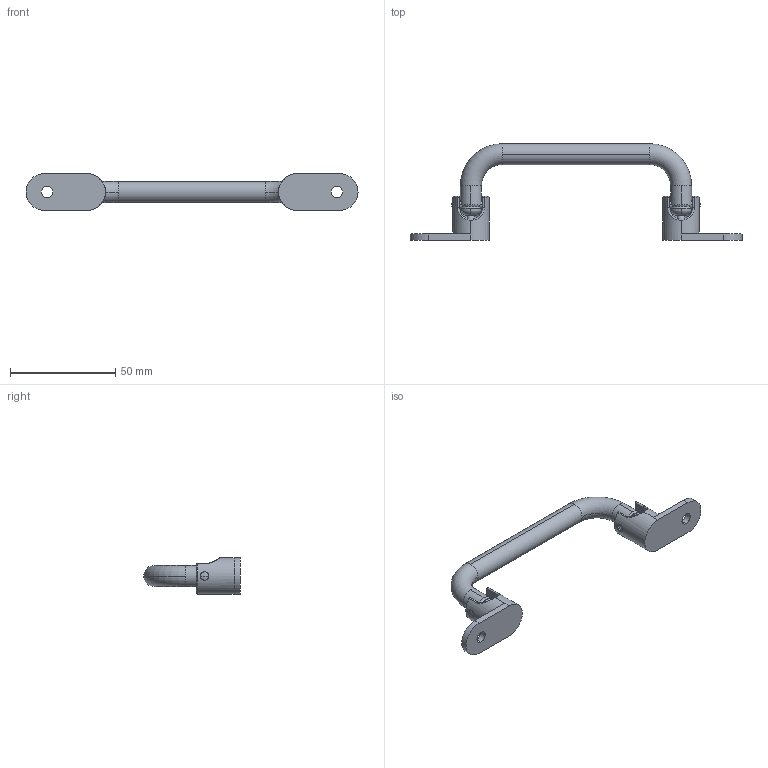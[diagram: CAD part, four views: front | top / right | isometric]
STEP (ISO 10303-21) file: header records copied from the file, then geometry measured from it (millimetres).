
FILE_DESCRIPTION (( 'STEP AP203' ), '1' );
FILE_NAME ('XG01-030-138.STEP', '2024-03-12T05:58:33', ( '' ), ( '' ), 'SwSTEP 2.0', 'SolidWorks 2020', '' );
FILE_SCHEMA (( 'CONFIG_CONTROL_DESIGN' ));
Length unit declared in the file: millimetre
Products named in the file (1): XG01-030-138
Bounding box: 158 x 46 x 17.5 mm (x, y, z)
Volume: 20332 mm3; surface area: 10955.6 mm2
Topology: 7 solids, 7 shells, 132 faces, 360 edges, 226 vertices
Faces by surface type: cylinder 52, torus 28, plane 22, bspline 14, sphere 8, cone 8
Entity records: 5635 total; most frequent: CARTESIAN_POINT 2443, ORIENTED_EDGE 684, DIRECTION 626, EDGE_CURVE 342, AXIS2_PLACEMENT_3D 271, VERTEX_POINT 220, CIRCLE 152, EDGE_LOOP 144
